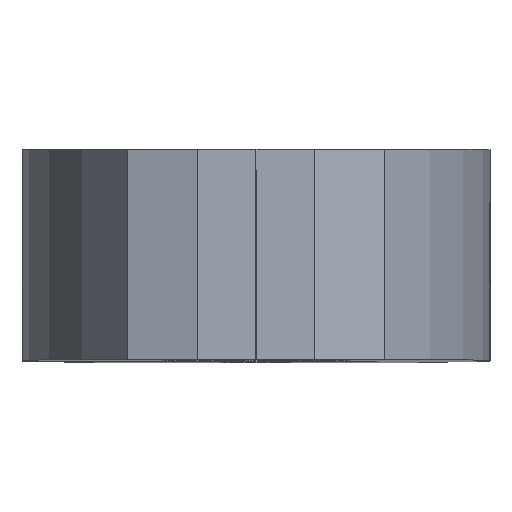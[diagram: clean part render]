
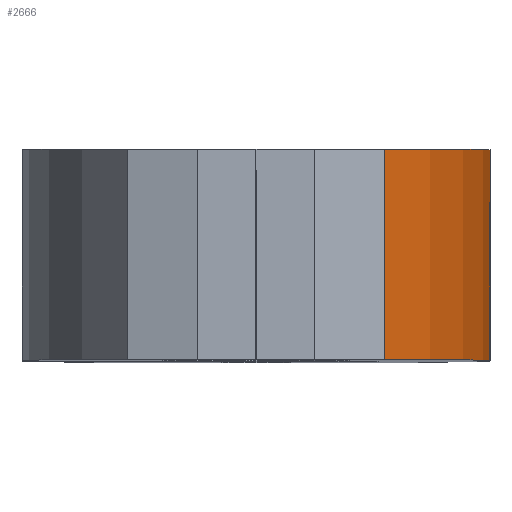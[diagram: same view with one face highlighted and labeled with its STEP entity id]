
A CAD part, top view. The second image highlights one B-rep face of the part: STEP entity #2666.
In plain terms, the highlighted cylindrical face has radius 20 mm (diameter 40 mm), a partial arc.
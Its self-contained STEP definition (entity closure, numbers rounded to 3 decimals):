
#129 = CARTESIAN_POINT ( 'NONE',  ( 10., 4.5, 21.557 ) ) ;
#319 = CIRCLE ( 'NONE', #926, 20. ) ;
#336 = VERTEX_POINT ( 'NONE', #1711 ) ;
#369 = DIRECTION ( 'NONE',  ( 0., -1., 0. ) ) ;
#457 = DIRECTION ( 'NONE',  ( 0., 1., 0. ) ) ;
#489 = CARTESIAN_POINT ( 'NONE',  ( -10., 0., 21.557 ) ) ;
#491 = CIRCLE ( 'NONE', #3044, 20. ) ;
#645 = DIRECTION ( 'NONE',  ( 0., 1., 0. ) ) ;
#708 = DIRECTION ( 'NONE',  ( 0., 0., 1. ) ) ;
#711 = EDGE_CURVE ( 'NONE', #2731, #1362, #319, .T. ) ;
#743 = DIRECTION ( 'NONE',  ( 0., 0., 1. ) ) ;
#767 = CARTESIAN_POINT ( 'NONE',  ( 10., 9., 21.557 ) ) ;
#926 = AXIS2_PLACEMENT_3D ( 'NONE', #2065, #645, #2315 ) ;
#1087 = LINE ( 'NONE', #129, #2297 ) ;
#1183 = FACE_OUTER_BOUND ( 'NONE', #2717, .T. ) ;
#1197 = ORIENTED_EDGE ( 'NONE', *, *, #711, .F. ) ;
#1362 = VERTEX_POINT ( 'NONE', #767 ) ;
#1440 = CARTESIAN_POINT ( 'NONE',  ( 5.5, 9., 34.196 ) ) ;
#1711 = CARTESIAN_POINT ( 'NONE',  ( 10., 0., 21.557 ) ) ;
#1788 = ORIENTED_EDGE ( 'NONE', *, *, #2319, .T. ) ;
#1840 = CYLINDRICAL_SURFACE ( 'NONE', #2782, 20. ) ;
#1878 = VERTEX_POINT ( 'NONE', #2199 ) ;
#2016 = ORIENTED_EDGE ( 'NONE', *, *, #2956, .T. ) ;
#2057 = EDGE_CURVE ( 'NONE', #1362, #336, #1087, .T. ) ;
#2065 = CARTESIAN_POINT ( 'NONE',  ( -10., 9., 21.557 ) ) ;
#2165 = DIRECTION ( 'NONE',  ( 0., 1., 0. ) ) ;
#2199 = CARTESIAN_POINT ( 'NONE',  ( 5.5, 0., 34.196 ) ) ;
#2213 = VECTOR ( 'NONE', #3010, 1000. ) ;
#2292 = LINE ( 'NONE', #2528, #2213 ) ;
#2297 = VECTOR ( 'NONE', #369, 1000. ) ;
#2315 = DIRECTION ( 'NONE',  ( 0., 0., 1. ) ) ;
#2319 = EDGE_CURVE ( 'NONE', #1878, #336, #491, .T. ) ;
#2384 = CARTESIAN_POINT ( 'NONE',  ( -10., 0., 21.557 ) ) ;
#2528 = CARTESIAN_POINT ( 'NONE',  ( 5.5, 4.5, 34.196 ) ) ;
#2666 = ADVANCED_FACE ( 'NONE', ( #1183 ), #1840, .T. ) ;
#2717 = EDGE_LOOP ( 'NONE', ( #2807, #1197, #2016, #1788 ) ) ;
#2731 = VERTEX_POINT ( 'NONE', #1440 ) ;
#2782 = AXIS2_PLACEMENT_3D ( 'NONE', #2384, #457, #708 ) ;
#2807 = ORIENTED_EDGE ( 'NONE', *, *, #2057, .F. ) ;
#2956 = EDGE_CURVE ( 'NONE', #2731, #1878, #2292, .T. ) ;
#3010 = DIRECTION ( 'NONE',  ( 0., -1., 0. ) ) ;
#3044 = AXIS2_PLACEMENT_3D ( 'NONE', #489, #2165, #743 ) ;
